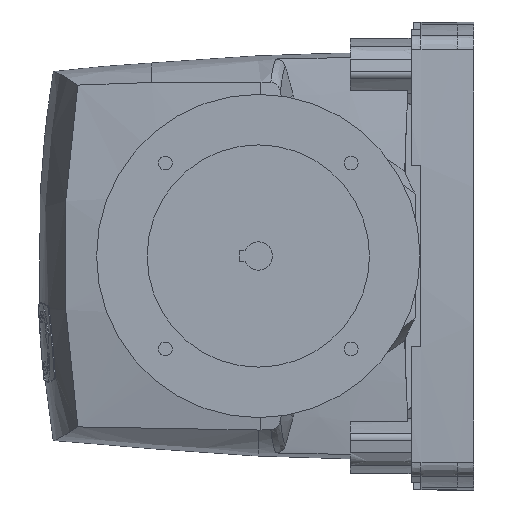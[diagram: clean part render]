
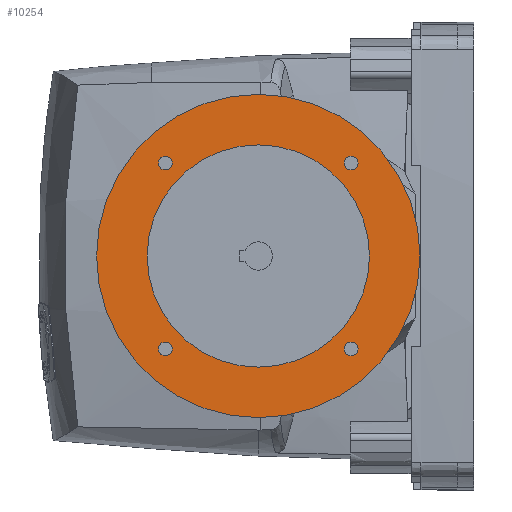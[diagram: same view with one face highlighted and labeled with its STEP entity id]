
A CAD part, left-side view. The second image highlights one B-rep face of the part: STEP entity #10254.
In plain terms, the highlighted planar face has unit normal (-1, 0, 0).
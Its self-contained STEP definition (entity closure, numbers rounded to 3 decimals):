
#805=CARTESIAN_POINT('',(-137.707,101.5,0.));
#806=DIRECTION('',(1.,0.,0.));
#807=DIRECTION('',(0.,1.,0.));
#808=AXIS2_PLACEMENT_3D('',#805,#806,#807);
#810=CARTESIAN_POINT('',(-137.707,101.5,0.));
#811=DIRECTION('',(-1.,0.,0.));
#812=DIRECTION('',(0.,1.,0.));
#813=AXIS2_PLACEMENT_3D('',#810,#811,#812);
#815=CARTESIAN_POINT('',(-137.707,101.5,0.));
#816=DIRECTION('',(-1.,0.,0.));
#817=DIRECTION('',(0.,1.,0.));
#818=AXIS2_PLACEMENT_3D('',#815,#816,#817);
#820=CARTESIAN_POINT('',(-137.707,101.5,0.));
#821=DIRECTION('',(1.,0.,0.));
#822=DIRECTION('',(0.,1.,0.));
#823=AXIS2_PLACEMENT_3D('',#820,#821,#822);
#825=CARTESIAN_POINT('',(-137.707,147.462,45.962));
#826=DIRECTION('',(-1.,0.,0.));
#827=DIRECTION('',(0.,0.,1.));
#828=AXIS2_PLACEMENT_3D('',#825,#826,#827);
#830=CARTESIAN_POINT('',(-137.707,147.462,45.962));
#831=DIRECTION('',(-1.,0.,0.));
#832=DIRECTION('',(0.,0.,-1.));
#833=AXIS2_PLACEMENT_3D('',#830,#831,#832);
#835=CARTESIAN_POINT('',(-137.707,147.462,-45.962));
#836=DIRECTION('',(-1.,0.,0.));
#837=DIRECTION('',(0.,0.,1.));
#838=AXIS2_PLACEMENT_3D('',#835,#836,#837);
#840=CARTESIAN_POINT('',(-137.707,147.462,-45.962));
#841=DIRECTION('',(-1.,0.,0.));
#842=DIRECTION('',(0.,0.,-1.));
#843=AXIS2_PLACEMENT_3D('',#840,#841,#842);
#845=CARTESIAN_POINT('',(-137.707,55.538,-45.962));
#846=DIRECTION('',(-1.,0.,0.));
#847=DIRECTION('',(0.,0.,1.));
#848=AXIS2_PLACEMENT_3D('',#845,#846,#847);
#850=CARTESIAN_POINT('',(-137.707,55.538,-45.962));
#851=DIRECTION('',(-1.,0.,0.));
#852=DIRECTION('',(0.,0.,-1.));
#853=AXIS2_PLACEMENT_3D('',#850,#851,#852);
#855=CARTESIAN_POINT('',(-137.707,55.538,45.962));
#856=DIRECTION('',(-1.,0.,0.));
#857=DIRECTION('',(0.,0.,1.));
#858=AXIS2_PLACEMENT_3D('',#855,#856,#857);
#860=CARTESIAN_POINT('',(-137.707,55.538,45.962));
#861=DIRECTION('',(-1.,0.,0.));
#862=DIRECTION('',(0.,0.,-1.));
#863=AXIS2_PLACEMENT_3D('',#860,#861,#862);
#8927=CARTESIAN_POINT('',(-137.707,147.462,49.362));
#8928=VERTEX_POINT('',#8927);
#8929=CARTESIAN_POINT('',(-137.707,147.462,42.562));
#8930=VERTEX_POINT('',#8929);
#8931=CARTESIAN_POINT('',(-137.707,147.462,-42.562));
#8932=VERTEX_POINT('',#8931);
#8933=CARTESIAN_POINT('',(-137.707,147.462,-49.362));
#8934=VERTEX_POINT('',#8933);
#8935=CARTESIAN_POINT('',(-137.707,55.538,-42.562));
#8936=VERTEX_POINT('',#8935);
#8937=CARTESIAN_POINT('',(-137.707,55.538,-49.362));
#8938=VERTEX_POINT('',#8937);
#8939=CARTESIAN_POINT('',(-137.707,55.538,49.362));
#8940=VERTEX_POINT('',#8939);
#8941=CARTESIAN_POINT('',(-137.707,55.538,42.562));
#8942=VERTEX_POINT('',#8941);
#8944=CARTESIAN_POINT('',(-137.707,156.5,0.));
#8946=VERTEX_POINT('',#8944);
#8947=CARTESIAN_POINT('',(-137.707,181.5,0.));
#8949=VERTEX_POINT('',#8947);
#8952=CARTESIAN_POINT('',(-137.707,46.5,0.));
#8954=VERTEX_POINT('',#8952);
#8955=CARTESIAN_POINT('',(-137.707,21.5,0.));
#8957=VERTEX_POINT('',#8955);
#10215=CARTESIAN_POINT('',(-137.707,101.5,0.));
#10216=DIRECTION('',(-1.,0.,0.));
#10217=DIRECTION('',(0.,-1.,0.));
#10218=AXIS2_PLACEMENT_3D('',#10215,#10216,#10217);
#10219=PLANE('',#10218);
#10220=ORIENTED_EDGE('',*,*,#10197,.T.);
#10221=ORIENTED_EDGE('',*,*,#10208,.F.);
#10222=EDGE_LOOP('',(#10220,#10221));
#10223=FACE_OUTER_BOUND('',#10222,.F.);
#10225=ORIENTED_EDGE('',*,*,#10224,.T.);
#10227=ORIENTED_EDGE('',*,*,#10226,.F.);
#10228=EDGE_LOOP('',(#10225,#10227));
#10229=FACE_BOUND('',#10228,.F.);
#10231=ORIENTED_EDGE('',*,*,#10230,.T.);
#10233=ORIENTED_EDGE('',*,*,#10232,.T.);
#10234=EDGE_LOOP('',(#10231,#10233));
#10235=FACE_BOUND('',#10234,.F.);
#10237=ORIENTED_EDGE('',*,*,#10236,.T.);
#10239=ORIENTED_EDGE('',*,*,#10238,.T.);
#10240=EDGE_LOOP('',(#10237,#10239));
#10241=FACE_BOUND('',#10240,.F.);
#10243=ORIENTED_EDGE('',*,*,#10242,.T.);
#10245=ORIENTED_EDGE('',*,*,#10244,.T.);
#10246=EDGE_LOOP('',(#10243,#10245));
#10247=FACE_BOUND('',#10246,.F.);
#10249=ORIENTED_EDGE('',*,*,#10248,.T.);
#10251=ORIENTED_EDGE('',*,*,#10250,.T.);
#10252=EDGE_LOOP('',(#10249,#10251));
#10253=FACE_BOUND('',#10252,.F.);
#10254=ADVANCED_FACE('',(#10223,#10229,#10235,#10241,#10247,#10253),#10219,.T.);
#809=CIRCLE('',#808,80.);
#814=CIRCLE('',#813,80.);
#819=CIRCLE('',#818,55.);
#824=CIRCLE('',#823,55.);
#829=CIRCLE('',#828,3.4);
#834=CIRCLE('',#833,3.4);
#839=CIRCLE('',#838,3.4);
#844=CIRCLE('',#843,3.4);
#849=CIRCLE('',#848,3.4);
#854=CIRCLE('',#853,3.4);
#859=CIRCLE('',#858,3.4);
#864=CIRCLE('',#863,3.4);
#10197=EDGE_CURVE('',#8949,#8957,#809,.T.);
#10208=EDGE_CURVE('',#8949,#8957,#814,.T.);
#10224=EDGE_CURVE('',#8946,#8954,#819,.T.);
#10226=EDGE_CURVE('',#8946,#8954,#824,.T.);
#10230=EDGE_CURVE('',#8928,#8930,#829,.T.);
#10232=EDGE_CURVE('',#8930,#8928,#834,.T.);
#10236=EDGE_CURVE('',#8932,#8934,#839,.T.);
#10238=EDGE_CURVE('',#8934,#8932,#844,.T.);
#10242=EDGE_CURVE('',#8936,#8938,#849,.T.);
#10244=EDGE_CURVE('',#8938,#8936,#854,.T.);
#10248=EDGE_CURVE('',#8940,#8942,#859,.T.);
#10250=EDGE_CURVE('',#8942,#8940,#864,.T.);
